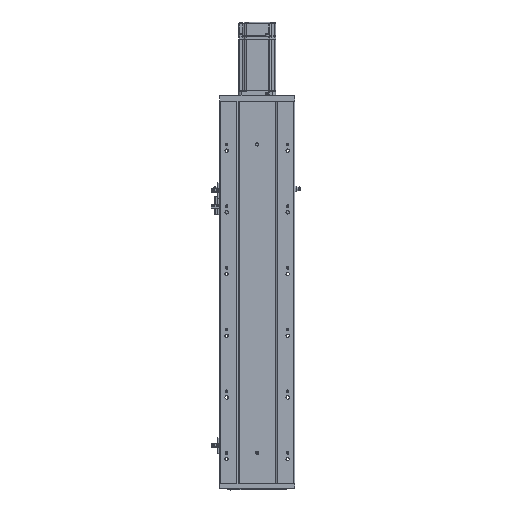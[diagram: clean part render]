
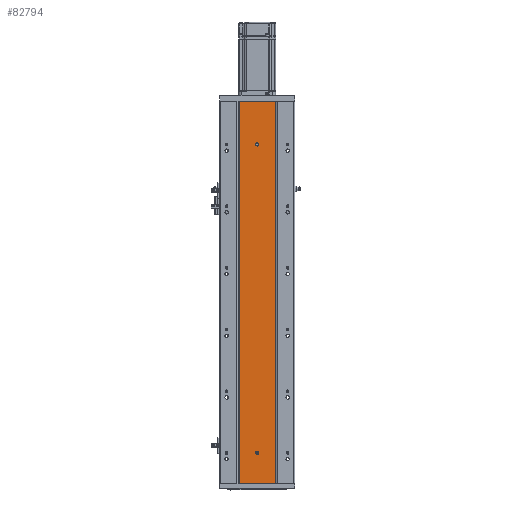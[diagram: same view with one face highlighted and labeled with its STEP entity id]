
A CAD part, front view. The second image highlights one B-rep face of the part: STEP entity #82794.
In plain terms, the highlighted planar face has unit normal (0, -1, 0).
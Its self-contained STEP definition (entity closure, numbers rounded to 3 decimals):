
#2351 = DIRECTION ( 'NONE',  ( 0., 0., -1. ) ) ;
#5860 = CIRCLE ( 'NONE', #35178, 2.5 ) ;
#9856 = VERTEX_POINT ( 'NONE', #35137 ) ;
#10295 = FACE_BOUND ( 'NONE', #32428, .T. ) ;
#11653 = VERTEX_POINT ( 'NONE', #56512 ) ;
#12285 = DIRECTION ( 'NONE',  ( 0., 1., 0. ) ) ;
#12324 = DIRECTION ( 'NONE',  ( 0., -1., 0. ) ) ;
#12428 = AXIS2_PLACEMENT_3D ( 'NONE', #78135, #58129, #20183 ) ;
#15632 = CARTESIAN_POINT ( 'NONE',  ( 163.998, 50.307, 620. ) ) ;
#16298 = CARTESIAN_POINT ( 'NONE',  ( 105.998, 50.307, 620. ) ) ;
#19247 = CARTESIAN_POINT ( 'NONE',  ( 0., 50.307, 620. ) ) ;
#19691 = EDGE_CURVE ( 'NONE', #9856, #11653, #63705, .T. ) ;
#20183 = DIRECTION ( 'NONE',  ( 0., 0., -1. ) ) ;
#20640 = VERTEX_POINT ( 'NONE', #43072 ) ;
#22435 = VECTOR ( 'NONE', #68810, 1000. ) ;
#22474 = EDGE_CURVE ( 'NONE', #46193, #30970, #43297, .T. ) ;
#22879 = VECTOR ( 'NONE', #67343, 1000. ) ;
#23304 = DIRECTION ( 'NONE',  ( 0., 0., -1. ) ) ;
#23365 = AXIS2_PLACEMENT_3D ( 'NONE', #30897, #12324, #43830 ) ;
#23537 = ORIENTED_EDGE ( 'NONE', *, *, #27690, .F. ) ;
#23547 = AXIS2_PLACEMENT_3D ( 'NONE', #38442, #12285, #57286 ) ;
#26057 = EDGE_CURVE ( 'NONE', #30970, #20640, #76653, .T. ) ;
#27690 = EDGE_CURVE ( 'NONE', #11653, #9856, #55397, .T. ) ;
#29024 = EDGE_LOOP ( 'NONE', ( #35876, #60301, #31924, #78879 ) ) ;
#29354 = ORIENTED_EDGE ( 'NONE', *, *, #59402, .F. ) ;
#30897 = CARTESIAN_POINT ( 'NONE',  ( 134.998, 50.307, 550. ) ) ;
#30970 = VERTEX_POINT ( 'NONE', #15632 ) ;
#31756 = VERTEX_POINT ( 'NONE', #43385 ) ;
#31924 = ORIENTED_EDGE ( 'NONE', *, *, #22474, .F. ) ;
#32428 = EDGE_LOOP ( 'NONE', ( #61101, #29354 ) ) ;
#33483 = FACE_OUTER_BOUND ( 'NONE', #29024, .T. ) ;
#35041 = LINE ( 'NONE', #40909, #22879 ) ;
#35137 = CARTESIAN_POINT ( 'NONE',  ( 134.998, 50.307, 552.5 ) ) ;
#35178 = AXIS2_PLACEMENT_3D ( 'NONE', #75116, #80507, #23304 ) ;
#35876 = ORIENTED_EDGE ( 'NONE', *, *, #56420, .T. ) ;
#37307 = CARTESIAN_POINT ( 'NONE',  ( 134.998, 50.307, 47.5 ) ) ;
#37608 = PLANE ( 'NONE',  #23547 ) ;
#38442 = CARTESIAN_POINT ( 'NONE',  ( 0., 50.307, 620. ) ) ;
#40388 = VECTOR ( 'NONE', #2351, 1000. ) ;
#40892 = DIRECTION ( 'NONE',  ( 0., 0., -1. ) ) ;
#40909 = CARTESIAN_POINT ( 'NONE',  ( 105.998, 50.307, 620. ) ) ;
#43072 = CARTESIAN_POINT ( 'NONE',  ( 163.998, 50.307, 0. ) ) ;
#43297 = LINE ( 'NONE', #19247, #66456 ) ;
#43385 = CARTESIAN_POINT ( 'NONE',  ( 134.998, 50.307, 52.5 ) ) ;
#43830 = DIRECTION ( 'NONE',  ( 0., 0., -1. ) ) ;
#46193 = VERTEX_POINT ( 'NONE', #16298 ) ;
#47404 = CARTESIAN_POINT ( 'NONE',  ( 134.998, 50.307, 50. ) ) ;
#48043 = CIRCLE ( 'NONE', #56143, 2.5 ) ;
#48496 = CARTESIAN_POINT ( 'NONE',  ( 105.998, 50.307, 0. ) ) ;
#51585 = EDGE_CURVE ( 'NONE', #67296, #31756, #48043, .T. ) ;
#53819 = EDGE_CURVE ( 'NONE', #46193, #72132, #35041, .T. ) ;
#55397 = CIRCLE ( 'NONE', #12428, 2.5 ) ;
#56143 = AXIS2_PLACEMENT_3D ( 'NONE', #47404, #59738, #40892 ) ;
#56420 = EDGE_CURVE ( 'NONE', #72132, #20640, #56674, .T. ) ;
#56512 = CARTESIAN_POINT ( 'NONE',  ( 134.998, 50.307, 547.5 ) ) ;
#56674 = LINE ( 'NONE', #81504, #22435 ) ;
#57286 = DIRECTION ( 'NONE',  ( -1., 0., 0. ) ) ;
#58129 = DIRECTION ( 'NONE',  ( 0., -1., 0. ) ) ;
#59402 = EDGE_CURVE ( 'NONE', #31756, #67296, #5860, .T. ) ;
#59738 = DIRECTION ( 'NONE',  ( 0., -1., 0. ) ) ;
#60301 = ORIENTED_EDGE ( 'NONE', *, *, #26057, .F. ) ;
#60391 = CARTESIAN_POINT ( 'NONE',  ( 163.998, 50.307, 620. ) ) ;
#61101 = ORIENTED_EDGE ( 'NONE', *, *, #51585, .F. ) ;
#63688 = DIRECTION ( 'NONE',  ( 1., 0., 0. ) ) ;
#63705 = CIRCLE ( 'NONE', #23365, 2.5 ) ;
#66456 = VECTOR ( 'NONE', #63688, 1000. ) ;
#67296 = VERTEX_POINT ( 'NONE', #37307 ) ;
#67343 = DIRECTION ( 'NONE',  ( 0., 0., -1. ) ) ;
#67713 = FACE_BOUND ( 'NONE', #82495, .T. ) ;
#68810 = DIRECTION ( 'NONE',  ( 1., 0., 0. ) ) ;
#72132 = VERTEX_POINT ( 'NONE', #48496 ) ;
#75116 = CARTESIAN_POINT ( 'NONE',  ( 134.998, 50.307, 50. ) ) ;
#76653 = LINE ( 'NONE', #60391, #40388 ) ;
#77530 = ORIENTED_EDGE ( 'NONE', *, *, #19691, .F. ) ;
#78135 = CARTESIAN_POINT ( 'NONE',  ( 134.998, 50.307, 550. ) ) ;
#78879 = ORIENTED_EDGE ( 'NONE', *, *, #53819, .T. ) ;
#80507 = DIRECTION ( 'NONE',  ( 0., -1., 0. ) ) ;
#81504 = CARTESIAN_POINT ( 'NONE',  ( 0., 50.307, 0. ) ) ;
#82495 = EDGE_LOOP ( 'NONE', ( #23537, #77530 ) ) ;
#82794 = ADVANCED_FACE ( 'NONE', ( #67713, #10295, #33483 ), #37608, .F. ) ;
